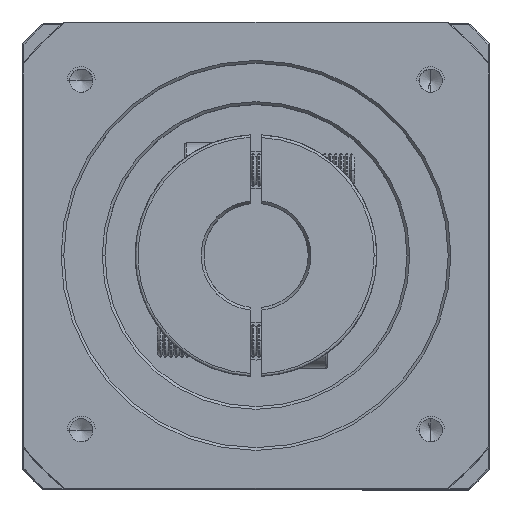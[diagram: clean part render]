
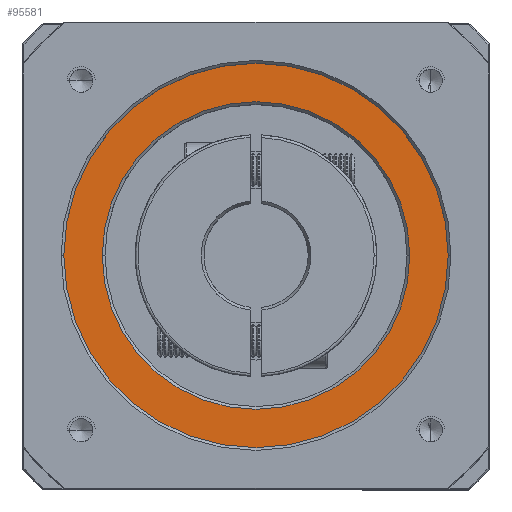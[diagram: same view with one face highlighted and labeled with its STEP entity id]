
A CAD part, top view. The second image highlights one B-rep face of the part: STEP entity #95581.
In plain terms, the highlighted planar face has unit normal (0, 0, 1).
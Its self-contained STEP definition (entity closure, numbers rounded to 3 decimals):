
#9075 = CARTESIAN_POINT ( 'NONE',  ( -52.737, 49.441, 19.814 ) ) ;
#10456 = EDGE_CURVE ( 'NONE', #91512, #119963, #70837, .T. ) ;
#14879 = DIRECTION ( 'NONE',  ( 1., 0., 0. ) ) ;
#17423 = DIRECTION ( 'NONE',  ( 0., 0., -1. ) ) ;
#18236 = AXIS2_PLACEMENT_3D ( 'NONE', #74586, #54561, #102811 ) ;
#22717 = DIRECTION ( 'NONE',  ( 1., 0., 0. ) ) ;
#24867 = DIRECTION ( 'NONE',  ( 0., 0., 1. ) ) ;
#26873 = AXIS2_PLACEMENT_3D ( 'NONE', #33547, #113048, #22717 ) ;
#27550 = CARTESIAN_POINT ( 'NONE',  ( -52.737, 49.441, 19.814 ) ) ;
#29264 = ORIENTED_EDGE ( 'NONE', *, *, #37098, .T. ) ;
#33547 = CARTESIAN_POINT ( 'NONE',  ( -52.737, 49.441, 19.814 ) ) ;
#37098 = EDGE_CURVE ( 'NONE', #119963, #91512, #41976, .T. ) ;
#41582 = VERTEX_POINT ( 'NONE', #96016 ) ;
#41846 = CARTESIAN_POINT ( 'NONE',  ( -87.737, 49.441, 19.814 ) ) ;
#41976 = CIRCLE ( 'NONE', #104685, 35. ) ;
#47343 = DIRECTION ( 'NONE',  ( 1., 0., 0. ) ) ;
#48712 = EDGE_LOOP ( 'NONE', ( #122940, #101917 ) ) ;
#53492 = CIRCLE ( 'NONE', #58546, 28. ) ;
#54561 = DIRECTION ( 'NONE',  ( 0., 0., 1. ) ) ;
#56215 = DIRECTION ( 'NONE',  ( 1., 0., 0. ) ) ;
#56625 = DIRECTION ( 'NONE',  ( 0., 0., -1. ) ) ;
#58546 = AXIS2_PLACEMENT_3D ( 'NONE', #9075, #17423, #47343 ) ;
#59727 = CIRCLE ( 'NONE', #78585, 28. ) ;
#67714 = EDGE_CURVE ( 'NONE', #108870, #41582, #53492, .T. ) ;
#70837 = CIRCLE ( 'NONE', #18236, 35. ) ;
#73217 = EDGE_LOOP ( 'NONE', ( #111328, #29264 ) ) ;
#74586 = CARTESIAN_POINT ( 'NONE',  ( -52.737, 49.441, 19.814 ) ) ;
#76844 = CARTESIAN_POINT ( 'NONE',  ( -17.737, 49.441, 19.814 ) ) ;
#78585 = AXIS2_PLACEMENT_3D ( 'NONE', #27550, #56625, #56215 ) ;
#82244 = PLANE ( 'NONE',  #26873 ) ;
#91512 = VERTEX_POINT ( 'NONE', #76844 ) ;
#94766 = CARTESIAN_POINT ( 'NONE',  ( -52.737, 49.441, 19.814 ) ) ;
#95581 = ADVANCED_FACE ( 'NONE', ( #121129, #118001 ), #82244, .T. ) ;
#96016 = CARTESIAN_POINT ( 'NONE',  ( -80.737, 49.441, 19.814 ) ) ;
#101917 = ORIENTED_EDGE ( 'NONE', *, *, #122841, .T. ) ;
#102811 = DIRECTION ( 'NONE',  ( 1., 0., 0. ) ) ;
#104685 = AXIS2_PLACEMENT_3D ( 'NONE', #94766, #24867, #14879 ) ;
#108870 = VERTEX_POINT ( 'NONE', #124261 ) ;
#111328 = ORIENTED_EDGE ( 'NONE', *, *, #10456, .T. ) ;
#113048 = DIRECTION ( 'NONE',  ( 0., 0., 1. ) ) ;
#118001 = FACE_BOUND ( 'NONE', #48712, .T. ) ;
#119963 = VERTEX_POINT ( 'NONE', #41846 ) ;
#121129 = FACE_OUTER_BOUND ( 'NONE', #73217, .T. ) ;
#122841 = EDGE_CURVE ( 'NONE', #41582, #108870, #59727, .T. ) ;
#122940 = ORIENTED_EDGE ( 'NONE', *, *, #67714, .T. ) ;
#124261 = CARTESIAN_POINT ( 'NONE',  ( -24.737, 49.441, 19.814 ) ) ;
